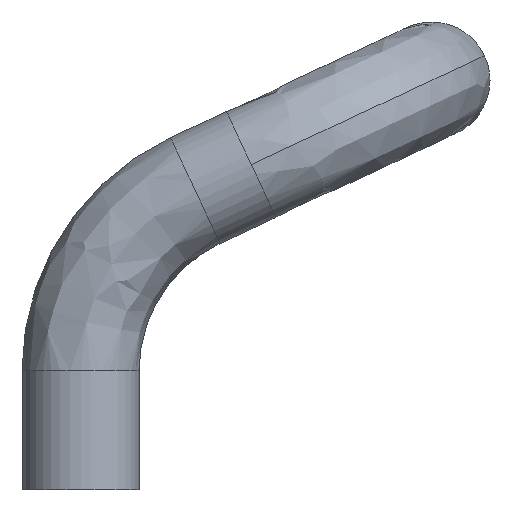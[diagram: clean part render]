
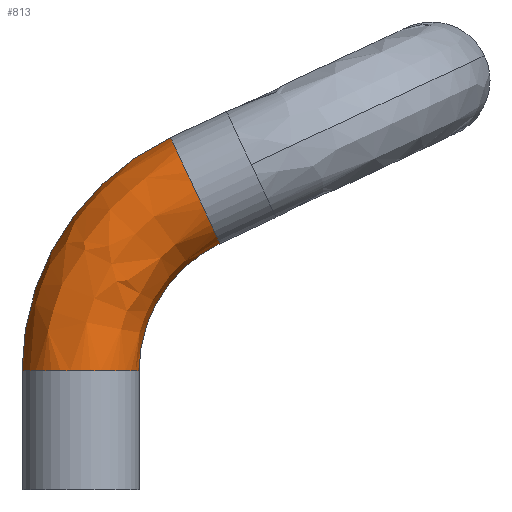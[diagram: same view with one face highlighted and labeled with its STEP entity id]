
A CAD part, front view. The second image highlights one B-rep face of the part: STEP entity #813.
In plain terms, the highlighted free-form (B-spline) face has degree [3, 3] with [4, 4] control points.
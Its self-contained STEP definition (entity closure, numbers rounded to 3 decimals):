
#12 = CARTESIAN_POINT ( 'NONE',  ( 0., -44.835, 58.814 ) ) ;
#35 = CARTESIAN_POINT ( 'NONE',  ( 14.815, -44.835, 65.422 ) ) ;
#43 = VERTEX_POINT ( 'NONE', #655 ) ;
#59 = EDGE_LOOP ( 'NONE', ( #325, #260, #842, #466 ) ) ;
#88 = EDGE_CURVE ( 'NONE', #43, #685, #327, .T. ) ;
#105 = CARTESIAN_POINT ( 'NONE',  ( 16.929, -44.835, 60.891 ) ) ;
#129 = DIRECTION ( 'NONE',  ( 0., 1., 0. ) ) ;
#260 = ORIENTED_EDGE ( 'NONE', *, *, #88, .T. ) ;
#285 = AXIS2_PLACEMENT_3D ( 'NONE', #702, #700, #921 ) ;
#287 = CIRCLE ( 'NONE', #357, 5. ) ;
#307 = EDGE_CURVE ( 'NONE', #787, #685, #836, .T. ) ;
#325 = ORIENTED_EDGE ( 'NONE', *, *, #550, .T. ) ;
#327 = CIRCLE ( 'NONE', #828, 12. ) ;
#352 = VERTEX_POINT ( 'NONE', #794 ) ;
#357 = AXIS2_PLACEMENT_3D ( 'NONE', #422, #420, #411 ) ;
#397 = CARTESIAN_POINT ( 'NONE',  ( 12.702, -44.835, 69.954 ) ) ;
#411 = DIRECTION ( 'NONE',  ( -1., 0., 0. ) ) ;
#420 = DIRECTION ( 'NONE',  ( 0., 0., 1. ) ) ;
#422 = CARTESIAN_POINT ( 'NONE',  ( 5., -44.835, 50.015 ) ) ;
#425 = FACE_OUTER_BOUND ( 'NONE', #59, .T. ) ;
#457 = CARTESIAN_POINT ( 'NONE',  ( 0., -44.835, 50.015 ) ) ;
#460 = AXIS2_PLACEMENT_3D ( 'NONE', #35, #819, #928 ) ;
#466 = ORIENTED_EDGE ( 'NONE', *, *, #863, .F. ) ;
#540 = CARTESIAN_POINT ( 'NONE',  ( 4.728, -44.835, 66.235 ) ) ;
#550 = EDGE_CURVE ( 'NONE', #352, #43, #287, .T. ) ;
#564 = CARTESIAN_POINT ( 'NONE',  ( 0., -54.835, 50.015 ) ) ;
#626 = CARTESIAN_POINT ( 'NONE',  ( 0., -54.835, 58.814 ) ) ;
#655 = CARTESIAN_POINT ( 'NONE',  ( 10., -44.835, 50.015 ) ) ;
#660 = CARTESIAN_POINT ( 'NONE',  ( 22., -44.835, 50.015 ) ) ;
#685 = VERTEX_POINT ( 'NONE', #105 ) ;
#692 = CARTESIAN_POINT ( 'NONE',  ( 4.728, -54.835, 66.235 ) ) ;
#700 = DIRECTION ( 'NONE',  ( 0., 1., 0. ) ) ;
#702 = CARTESIAN_POINT ( 'NONE',  ( 22., -44.835, 50.015 ) ) ;
#717 = CARTESIAN_POINT ( 'NONE',  ( 12.702, -54.835, 69.954 ) ) ;
#737 = DIRECTION ( 'NONE',  ( 0., 0., 1. ) ) ;
#787 = VERTEX_POINT ( 'NONE', #941 ) ;
#794 = CARTESIAN_POINT ( 'NONE',  ( 0., -44.835, 50.015 ) ) ;
#806 =( BOUNDED_SURFACE ( )  B_SPLINE_SURFACE ( 3, 3, ( 
 ( #457, #12, #540, #397 ),
 ( #564, #626, #692, #717 ),
 ( #948, #945, #935, #932 ),
 ( #927, #907, #868, #864 ) ),
 .UNSPECIFIED., .F., .F., .T. ) 
 B_SPLINE_SURFACE_WITH_KNOTS ( ( 4, 4 ),
 ( 4, 4 ),
 ( 0., 1. ),
 ( 0., 1. ),
 .UNSPECIFIED. ) 
 GEOMETRIC_REPRESENTATION_ITEM ( )  RATIONAL_B_SPLINE_SURFACE ( (
 ( 1., 0.896, 0.896, 1.),
 ( 0.333, 0.299, 0.299, 0.333),
 ( 0.333, 0.299, 0.299, 0.333),
 ( 1., 0.896, 0.896, 1.) ) ) 
 REPRESENTATION_ITEM ( '' )  SURFACE ( )  );
#813 = ADVANCED_FACE ( 'NONE', ( #425 ), #806, .T. ) ;
#819 = DIRECTION ( 'NONE',  ( 0.906, 0., 0.423 ) ) ;
#828 = AXIS2_PLACEMENT_3D ( 'NONE', #660, #129, #737 ) ;
#836 = CIRCLE ( 'NONE', #460, 5. ) ;
#842 = ORIENTED_EDGE ( 'NONE', *, *, #307, .F. ) ;
#863 = EDGE_CURVE ( 'NONE', #352, #787, #962, .T. ) ;
#864 = CARTESIAN_POINT ( 'NONE',  ( 16.929, -44.835, 60.891 ) ) ;
#868 = CARTESIAN_POINT ( 'NONE',  ( 12.579, -44.835, 58.862 ) ) ;
#907 = CARTESIAN_POINT ( 'NONE',  ( 10., -44.835, 54.815 ) ) ;
#921 = DIRECTION ( 'NONE',  ( 0., 0., 1. ) ) ;
#927 = CARTESIAN_POINT ( 'NONE',  ( 10., -44.835, 50.015 ) ) ;
#928 = DIRECTION ( 'NONE',  ( 0.423, 0., -0.906 ) ) ;
#932 = CARTESIAN_POINT ( 'NONE',  ( 16.929, -54.835, 60.891 ) ) ;
#935 = CARTESIAN_POINT ( 'NONE',  ( 12.579, -54.835, 58.862 ) ) ;
#941 = CARTESIAN_POINT ( 'NONE',  ( 12.702, -44.835, 69.954 ) ) ;
#945 = CARTESIAN_POINT ( 'NONE',  ( 10., -54.835, 54.815 ) ) ;
#948 = CARTESIAN_POINT ( 'NONE',  ( 10., -54.835, 50.015 ) ) ;
#962 = CIRCLE ( 'NONE', #285, 22. ) ;
